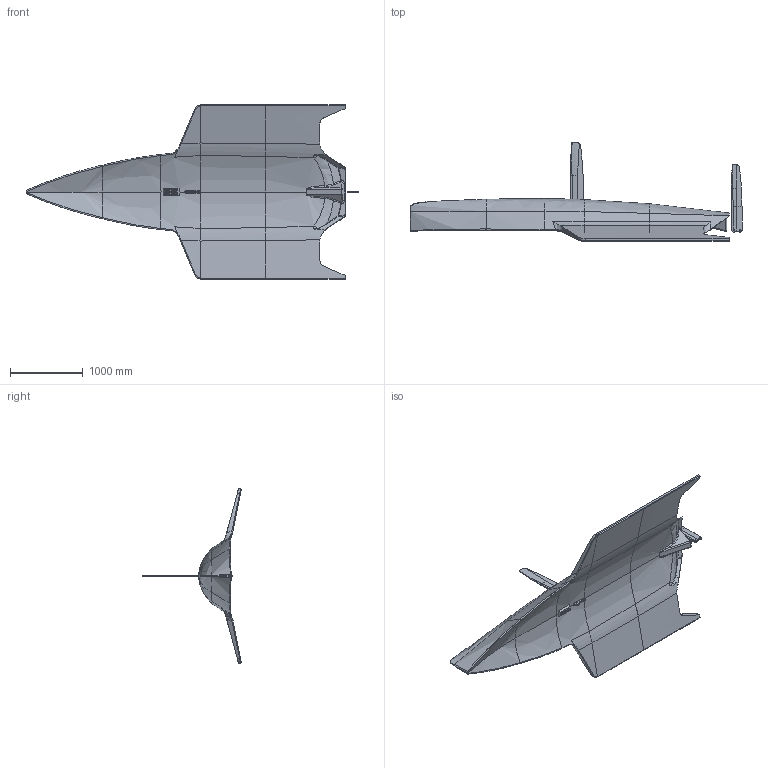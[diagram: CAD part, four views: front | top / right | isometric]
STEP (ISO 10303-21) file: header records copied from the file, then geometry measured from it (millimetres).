
FILE_DESCRIPTION((''),'2;1');
FILE_NAME('CPS-A0001_ASM','2012-02-08T',('W'),(''),'PRO/ENGINEER BY PARAMETRIC TECHNOLOGY CORPORATION, 2005290','PRO/ENGINEER BY PARAMETRIC TECHNOLOGY CORPORATION, 2005290','');
FILE_SCHEMA(('CONFIG_CONTROL_DESIGN'));
Length unit declared in the file: millimetre
Products named in the file (6): CPS-00001; CPS-00002; CPS-A0002_ASM; CPS-00014; CPS-00015; CPS-A0001_ASM
Assembly tree (5 placements, depth 3):
  CPS-A0001_ASM
    CPS-A0002_ASM
      CPS-00001
      CPS-00002
    CPS-00014
    CPS-00015
Bounding box: 4577 x 1357.89 x 2400 mm (x, y, z)
Volume: 932175556.7 mm3; surface area: 15838153.9 mm2
Topology: 4 solids, 4 shells, 325 faces, 838 edges, 517 vertices
Faces by surface type: bspline 147, cylinder 114, plane 47, torus 10, sphere 4, extrusion 3
Entity records: 17025 total; most frequent: CARTESIAN_POINT 10031, ORIENTED_EDGE 1676, DIRECTION 1040, EDGE_CURVE 838, VERTEX_POINT 517, AXIS2_PLACEMENT_3D 417, B_SPLINE_CURVE_WITH_KNOTS 409, EDGE_LOOP 387
